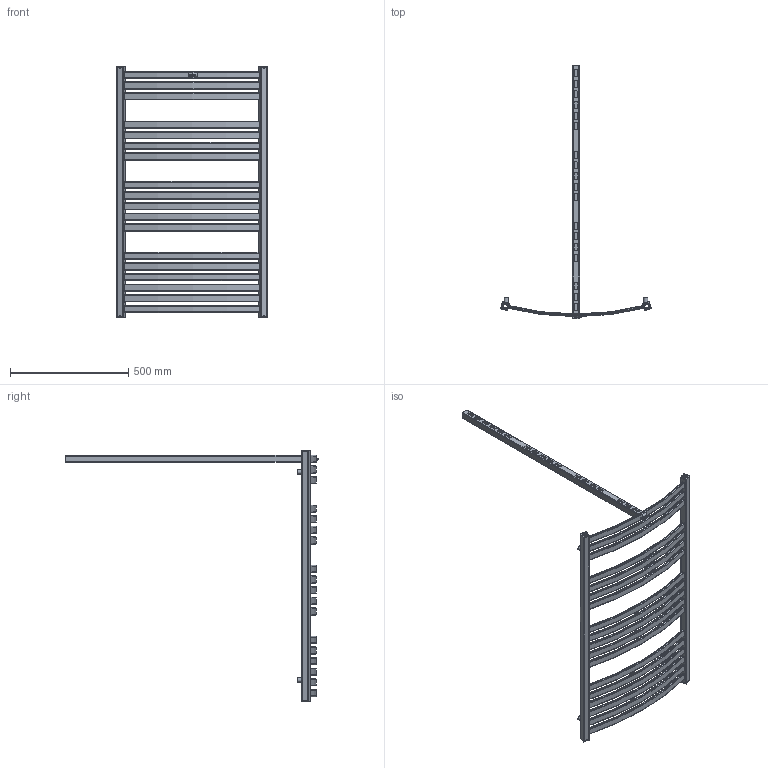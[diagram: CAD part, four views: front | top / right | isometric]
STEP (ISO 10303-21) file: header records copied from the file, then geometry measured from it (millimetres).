
FILE_DESCRIPTION( ( 'Unknown' ), '1' );
FILE_NAME( 'D:/Alplast sp. j/Witryna zespoBu - Projekty/Archiwum/Grzejniki Archiwum/Projekty/STANDARD/AK-EL/AK4-600EL.stp', 'Unknown', ( 'Unknown' ), ( 'Unknown' ), 'PSStep 10.1', 'Unknown', ' ' );
FILE_SCHEMA( ( 'AUTOMOTIVE_DESIGN { 1 0 10303 214 1 1 1 1 }' ) );
Length unit declared in the file: millimetre
Products named in the file (5): Assem1; zaslepka kwadrat otwor; tulejka kat 12stopni; kana³  poziomy lukowy L-600; AK4-EPEL
Bounding box: 635.8 x 1071 x 1060 mm (x, y, z)
Volume: 1686140.1 mm3; surface area: 2258237.1 mm2
Topology: 32 solids, 32 shells, 968 faces, 2702 edges, 1808 vertices
Faces by surface type: plane 430, cylinder 376, torus 162
Full cylindrical faces by diameter (mm): 16 x5, 18 x5, 18.631 x5, 23 x5
Entity records: 8830 total; most frequent: DIRECTION 1286, CARTESIAN_POINT 1225, ORIENTED_EDGE 1180, EDGE_CURVE 590, AXIS2_PLACEMENT_3D 459, VERTEX_POINT 398, LINE 368, VECTOR 368
